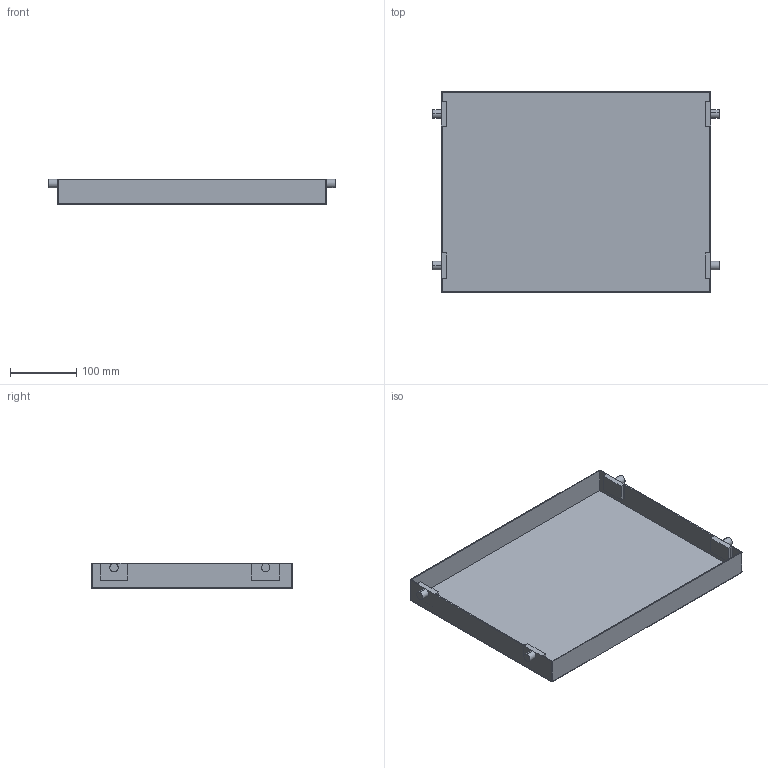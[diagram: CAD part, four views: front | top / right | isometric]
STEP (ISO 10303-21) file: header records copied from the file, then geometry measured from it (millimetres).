
FILE_DESCRIPTION (( 'STEP AP203' ), '1' );
FILE_NAME ('310113151.STEP', '2013-04-24T17:43:13', ( 'VPC' ), ( 'Virginia Panel Corporation' ), 'SwSTEP 2.0', 'SolidWorks 2012', '' );
FILE_SCHEMA (( 'CONFIG_CONTROL_DESIGN' ));
Length unit declared in the file: inch
Products named in the file (1): 310113151
Bounding box: 431.55 x 303.78 x 38.1 mm (x, y, z)
Volume: 297011.1 mm3; surface area: 356097.5 mm2
Topology: 1 solids, 1 shells, 59 faces, 154 edges, 94 vertices
Faces by surface type: plane 31, cylinder 24, sphere 4
Entity records: 1849 total; most frequent: DIRECTION 320, CARTESIAN_POINT 304, ORIENTED_EDGE 300, EDGE_CURVE 150, AXIS2_PLACEMENT_3D 110, LINE 100, VECTOR 100, VERTEX_POINT 94
